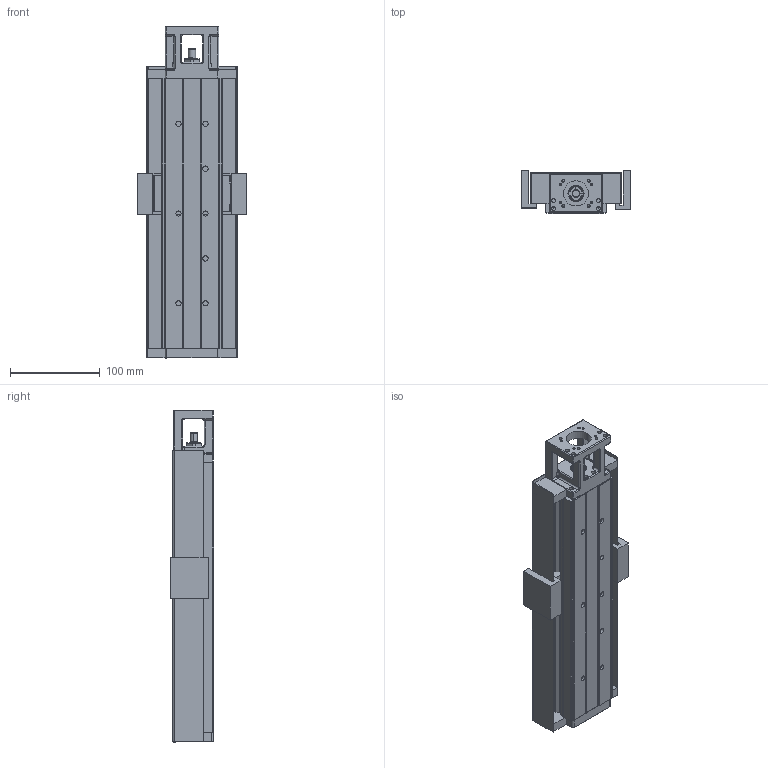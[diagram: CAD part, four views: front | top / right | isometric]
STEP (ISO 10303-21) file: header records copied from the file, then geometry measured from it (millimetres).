
FILE_DESCRIPTION (( 'STEP AP203' ), '1' );
FILE_NAME ('hkk60-300a1f0s.STEP', '2019-10-31T02:56:36', ( '微软用户' ), ( '微软中国' ), 'SwSTEP 2.0', 'SolidWorks 2016', '' );
FILE_SCHEMA (( 'CONFIG_CONTROL_DESIGN' ));
Length unit declared in the file: millimetre
Products named in the file (3): hkk60賑怢_5; hkk60-300a1f0s; hkk60-300_5
Assembly tree (2 placements, depth 2):
  hkk60-300a1f0s
    hkk60-300_5
    hkk60賑怢_5
Bounding box: 121 x 48 x 370 mm (x, y, z)
Volume: 652219.3 mm3; surface area: 307997.8 mm2
Topology: 47 solids, 47 shells, 1406 faces, 3556 edges, 2156 vertices
Faces by surface type: cylinder 512, plane 464, cone 219, bspline 211
Entity records: 60518 total; most frequent: CARTESIAN_POINT 28260, ORIENTED_EDGE 6778, DIRECTION 6328, EDGE_CURVE 3389, AXIS2_PLACEMENT_3D 2321, VERTEX_POINT 2156, LINE 1686, VECTOR 1686
